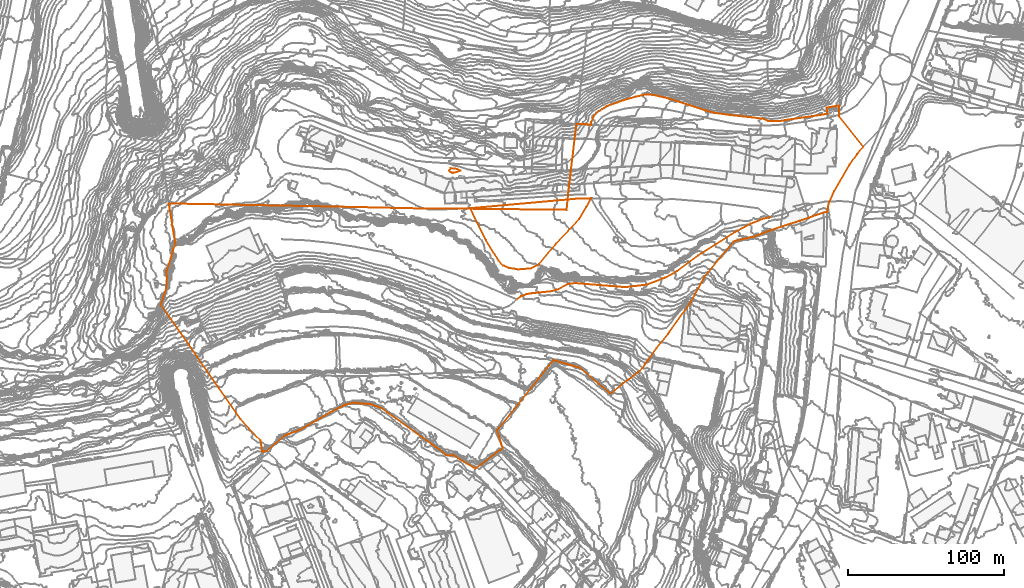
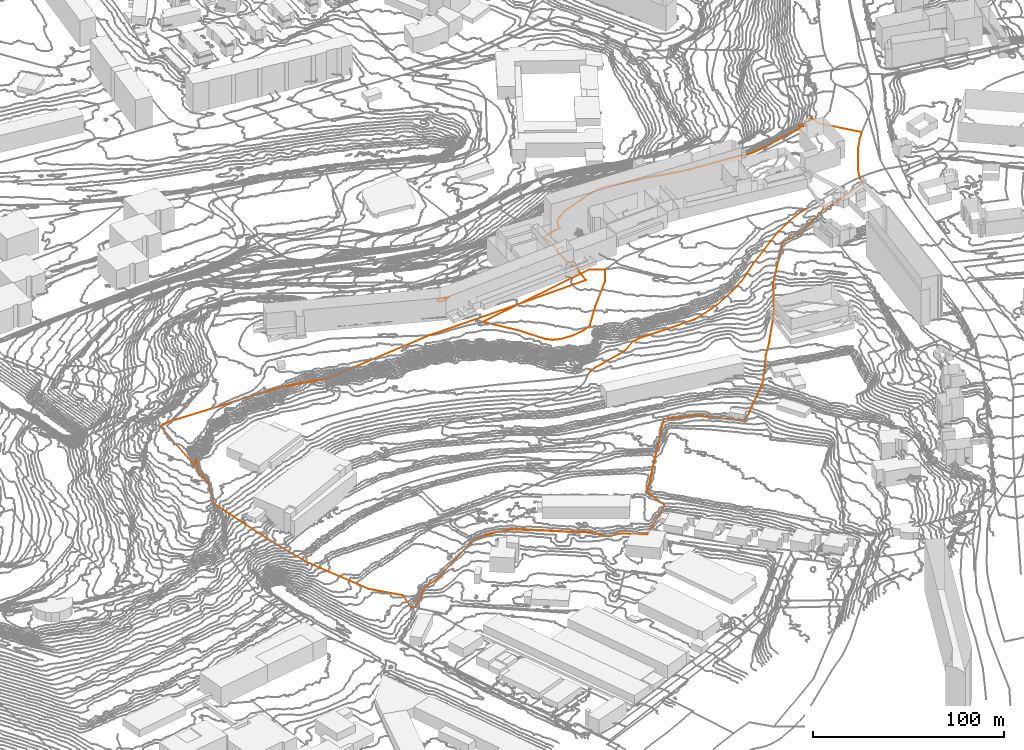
# Not in any storey, part 204 of 419: 5 proxies.
"""IFC2X3 model written with IfcOpenShell, lengths in metres."""

from ifc_helpers import new_model, entity, si_unit, frame, origin_with_axes, place, context, subcontext, project, element, save


model = new_model("IFC2X3")

# Units and contexts
model_context = context("Model", 3, precision=1e-05, world=origin_with_axes())
body_context = subcontext(model_context, "Body", "Model", "MODEL_VIEW")
ifc_project = project(units=[si_unit("AREAUNIT", "SQUARE_METRE"), si_unit("LENGTHUNIT", "METRE")], contexts=[model_context])

# Proxies
proxy_1_placement = place(None, frame((460.4920204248, 296.6976909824, 67.6), z_axis=(0.0, 0.0, 1.0), x_axis=(1.0, 0.0, 0.0)))
element("IfcBuildingElementProxy", 1, at=proxy_1_placement, Name="Route 174", ObjectType="NOTDEFINED", context=body_context, shape_type="GeometricCurveSet", body=[
    entity("IfcGeometricCurveSet", [entity("IfcPolyline", [entity("IfcCartesianPoint", [0.0, 0.0, 0.0]), entity("IfcCartesianPoint", [10.1, -20.3999999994, 3.3]), entity("IfcCartesianPoint", [18.2999999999, -33.5999999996, 3.1]), entity("IfcCartesianPoint", [21.0, -36.5999999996, 3.3]), entity("IfcCartesianPoint", [25.0, -38.2999999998, 3.5]), entity("IfcCartesianPoint", [30.7999999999, -39.2000000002, 3.9]), entity("IfcCartesianPoint", [38.7, -38.5999999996, 4.3]), entity("IfcCartesianPoint", [44.1, -35.8999999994, 4.3]), entity("IfcCartesianPoint", [55.1, -22.5, 4.6]), entity("IfcCartesianPoint", [69.9, -6.8999999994, 5.4]), entity("IfcCartesianPoint", [74.5, 0.9000000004, 5.9]), entity("IfcCartesianPoint", [77.5, 6.4000000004, 2.4])])]),
])
proxy_2_placement = place(None, frame((490.2920204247, 238.2976909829, 58.6), z_axis=(0.0, 0.0, 1.0), x_axis=(1.0, 0.0, 0.0)))
element("IfcBuildingElementProxy", 2, at=proxy_2_placement, Name="Route 182", ObjectType="NOTDEFINED", context=body_context, shape_type="GeometricCurveSet", body=[
    entity("IfcGeometricCurveSet", [entity("IfcPolyline", [entity("IfcCartesianPoint", [0.0, 0.0, 0.0]), entity("IfcCartesianPoint", [2.8, 2.0, 0.3]), entity("IfcCartesianPoint", [6.3, 3.2999999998, 0.6]), entity("IfcCartesianPoint", [9.9, 3.8999999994, 0.8]), entity("IfcCartesianPoint", [22.3, 5.1999999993, 2.6]), entity("IfcCartesianPoint", [26.3, 6.2999999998, 2.7]), entity("IfcCartesianPoint", [32.7000000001, 9.7999999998, 3.9]), entity("IfcCartesianPoint", [37.4, 10.3999999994, 4.2]), entity("IfcCartesianPoint", [69.5, 7.7999999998, 6.6]), entity("IfcCartesianPoint", [83.8, 9.5, 9.8]), entity("IfcCartesianPoint", [95.3, 13.8999999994, 11.9]), entity("IfcCartesianPoint", [103.0, 18.1999999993, 12.2]), entity("IfcCartesianPoint", [116.4, 28.1999999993, 13.4]), entity("IfcCartesianPoint", [140.0, 43.1999999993, 16.4]), entity("IfcCartesianPoint", [149.9, 48.5, 16.6]), entity("IfcCartesianPoint", [158.5, 51.7999999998, 17.3]), entity("IfcCartesianPoint", [162.5, 52.5999999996, 17.3])])]),
])
proxy_3_placement = place(None, frame((460.4920204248, 296.6976909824, 67.6), z_axis=(0.0, 0.0, 1.0), x_axis=(1.0, 0.0, 0.0)))
element("IfcBuildingElementProxy", 3, at=proxy_3_placement, Name="Route 183", ObjectType="NOTDEFINED", context=body_context, shape_type="GeometricCurveSet", body=[
    entity("IfcGeometricCurveSet", [entity("IfcPolyline", [entity("IfcCartesianPoint", [77.5, 6.4000000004, 2.4]), entity("IfcCartesianPoint", [67.7999999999, 6.1000000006, 6.1]), entity("IfcCartesianPoint", [0.0, 0.0, 0.0])])]),
])
proxy_4_placement = place(None, frame((261.9020204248, 235.0976909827, 58.5772102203), z_axis=(0.0, 0.0, 1.0), x_axis=(1.0, 0.0, 0.0)))
element("IfcBuildingElementProxy", 4, at=proxy_4_placement, Name="Cadastre 349", ObjectType="NOTDEFINED", context=body_context, shape_type="GeometricCurveSet", body=[
    entity("IfcGeometricCurveSet", [entity("IfcPolyline", [entity("IfcCartesianPoint", [202.0299999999, -105.25, -26.914180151]), entity("IfcCartesianPoint", [200.85, -104.6699999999, -26.9485856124]), entity("IfcCartesianPoint", [187.5299999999, -96.75, -26.1821710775]), entity("IfcCartesianPoint", [184.61, -96.8899999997, -26.7958016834]), entity("IfcCartesianPoint", [183.33, -96.5899999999, -26.9672506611]), entity("IfcCartesianPoint", [176.2899999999, -91.4900000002, -24.9324689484]), entity("IfcCartesianPoint", [141.75, -66.6299999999, -25.9833512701]), entity("IfcCartesianPoint", [134.74, -64.0999999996, -26.7583103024]), entity("IfcCartesianPoint", [123.46, -63.0800000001, -27.1942998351]), entity("IfcCartesianPoint", [118.0299999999, -64.4500000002, -28.3032106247]), entity("IfcCartesianPoint", [108.64, -69.3700000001, -29.0222855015]), entity("IfcCartesianPoint", [90.01, -80.1900000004, -30.4249418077]), entity("IfcCartesianPoint", [79.63, -84.0700000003, -30.6483387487]), entity("IfcCartesianPoint", [68.23, -94.0, -33.2681498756]), entity("IfcCartesianPoint", [65.23, -94.46, -32.04741053]), entity("IfcCartesianPoint", [64.34, -87.4699999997, -28.388389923]), entity("IfcCartesianPoint", [51.4399999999, -73.6500000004, -28.1747105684]), entity("IfcCartesianPoint", [30.37, -43.5499999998, -21.4176504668]), entity("IfcCartesianPoint", [18.3099999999, -25.7999999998, -13.9216702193]), entity("IfcCartesianPoint", [0.0, 0.0, 0.0]), entity("IfcCartesianPoint", [1.01, 1.8200000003, -1.3383306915]), entity("IfcCartesianPoint", [3.6499999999, 10.1500000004, 4.8099476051]), entity("IfcCartesianPoint", [4.2899999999, 18.1100000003, 4.9075290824]), entity("IfcCartesianPoint", [3.72, 20.7999999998, 3.7881388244]), entity("IfcCartesianPoint", [6.6499999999, 29.2599999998, 7.8422749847]), entity("IfcCartesianPoint", [8.14, 34.75, -1.2082103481]), entity("IfcCartesianPoint", [8.58, 36.4299999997, -1.17840154]), entity("IfcCartesianPoint", [9.77, 37.5499999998, -1.2064095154]), entity("IfcCartesianPoint", [5.46, 64.6600000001, 8.193564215]), entity("IfcCartesianPoint", [11.59, 64.5499999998, 9.2410389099]), entity("IfcCartesianPoint", [76.74, 63.3200000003, 8.7538974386]), entity("IfcCartesianPoint", [105.75, 62.79, 4.8092131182]), entity("IfcCartesianPoint", [164.75, 61.5, 11.7961877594]), entity("IfcCartesianPoint", [199.6, 61.25, 12.5687461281]), entity("IfcCartesianPoint", [260.4399999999, 60.5999999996, 14.7667883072]), entity("IfcCartesianPoint", [260.7799999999, 63.9699999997, 14.7468878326]), entity("IfcCartesianPoint", [261.2899999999, 69.1600000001, 14.8003480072]), entity("IfcCartesianPoint", [261.39, 70.0499999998, 14.8560369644]), entity("IfcCartesianPoint", [261.64, 72.5199999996, 14.8662703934]), entity("IfcCartesianPoint", [262.1699999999, 76.9799999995, 13.8671907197]), entity("IfcCartesianPoint", [263.25, 86.3300000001, 10.1597164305]), entity("IfcCartesianPoint", [265.6, 106.3399999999, 9.5089683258]), entity("IfcCartesianPoint", [266.74, 115.6299999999, 6.3075559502]), entity("IfcCartesianPoint", [273.08, 115.4799999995, 8.8708946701]), entity("IfcCartesianPoint", [273.0699999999, 115.2199999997, 8.8905908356]), entity("IfcCartesianPoint", [276.12, 115.0800000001, 9.5141896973]), entity("IfcCartesianPoint", [276.2999999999, 116.9100000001, 9.2694157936]), entity("IfcCartesianPoint", [278.02, 121.04, 9.5051463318]), entity("IfcCartesianPoint", [281.0, 123.8399999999, 9.5318755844]), entity("IfcCartesianPoint", [286.1, 127.1299999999, 9.5583522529]), entity("IfcCartesianPoint", [299.26, 131.5800000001, 10.0932725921]), entity("IfcCartesianPoint", [304.63, 133.1200000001, 10.4055749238]), entity("IfcCartesianPoint", [310.7999999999, 134.4799999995, 10.54330242]), entity("IfcCartesianPoint", [314.83, 134.46, 10.4857580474]), entity("IfcCartesianPoint", [326.63, 131.7699999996, 11.050139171]), entity("IfcCartesianPoint", [332.1599999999, 129.8799999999, 11.8575656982]), entity("IfcCartesianPoint", [338.0, 128.0899999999, 12.421638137]), entity("IfcCartesianPoint", [349.3199999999, 124.3300000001, 13.2531569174]), entity("IfcCartesianPoint", [355.1499999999, 122.79, 13.5253176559]), entity("IfcCartesianPoint", [364.89, 121.4399999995, 13.8900717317]), entity("IfcCartesianPoint", [386.95, 118.9399999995, 14.566245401]), entity("IfcCartesianPoint", [389.62, 117.46, 14.6610374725]), entity("IfcCartesianPoint", [393.51, 117.4100000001, 14.8859076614]), entity("IfcCartesianPoint", [397.5399999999, 117.6600000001, 15.090247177]), entity("IfcCartesianPoint", [402.46, 118.4000000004, 15.3564022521]), entity("IfcCartesianPoint", [427.72, 122.1200000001, 17.2623619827]), entity("IfcCartesianPoint", [427.0599999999, 126.0700000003, 15.1642805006]), entity("IfcCartesianPoint", [431.01, 126.7299999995, 15.0399584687]), entity("IfcCartesianPoint", [432.98, 126.9900000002, 15.5036792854]), entity("IfcCartesianPoint", [435.33, 127.5899999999, 16.6598076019]), entity("IfcCartesianPoint", [435.1, 120.7000000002, 17.5188901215]), entity("IfcCartesianPoint", [450.6599999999, 101.2199999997, 18.0718868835]), entity("IfcCartesianPoint", [446.74, 96.4000000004, 18.1707900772]), entity("IfcCartesianPoint", [441.83, 89.5999999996, 18.2154520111]), entity("IfcCartesianPoint", [432.02, 72.7400000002, 18.250136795]), entity("IfcCartesianPoint", [428.6799999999, 65.4000000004, 18.3534002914]), entity("IfcCartesianPoint", [427.5399999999, 59.5499999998, 18.4880412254]), entity("IfcCartesianPoint", [425.25, 58.8600000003, 18.7717193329]), entity("IfcCartesianPoint", [415.6499999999, 55.54, 18.4543913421]), entity("IfcCartesianPoint", [410.1499999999, 53.6600000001, 18.1913319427]), entity("IfcCartesianPoint", [404.36, 51.79, 18.2504702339]), entity("IfcCartesianPoint", [397.6599999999, 49.7000000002, 18.2357300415]), entity("IfcCartesianPoint", [390.95, 47.3099999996, 16.5250176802]), entity("IfcCartesianPoint", [380.2999999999, 43.3600000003, 13.0522999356]), entity("IfcCartesianPoint", [368.37, 40.7000000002, 13.3071100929]), entity("IfcCartesianPoint", [367.5699999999, 40.3899999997, 13.2558498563]), entity("IfcCartesianPoint", [348.87, 17.6799999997, 7.6153086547]), entity("IfcCartesianPoint", [340.0399999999, 1.46, 3.5019691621]), entity("IfcCartesianPoint", [339.33, 0.4799999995, 2.8069264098]), entity("IfcCartesianPoint", [337.5599999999, -1.9699999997, 1.5955469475]), entity("IfcCartesianPoint", [326.39, -17.4199999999, 0.7337088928]), entity("IfcCartesianPoint", [325.36, -19.04, 0.6328245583]), entity("IfcCartesianPoint", [318.02, -28.04, 0.0781655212]), entity("IfcCartesianPoint", [311.97, -36.6600000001, -3.5582647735]), entity("IfcCartesianPoint", [310.73, -38.4299999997, -4.2120703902]), entity("IfcCartesianPoint", [309.23, -40.8100000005, -4.6164048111]), entity("IfcCartesianPoint", [306.34, -43.4500000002, -6.0365854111]), entity("IfcCartesianPoint", [296.6699999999, -50.5999999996, -11.1525319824]), entity("IfcCartesianPoint", [288.6899999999, -57.2999999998, -13.7012100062]), entity("IfcCartesianPoint", [268.6599999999, -40.6399999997, -13.3537724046]), entity("IfcCartesianPoint", [251.87, -35.79, -12.7512521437]), entity("IfcCartesianPoint", [215.9299999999, -80.75, -19.5509502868]), entity("IfcCartesianPoint", [219.48, -92.2000000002, -21.9983092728]), entity("IfcCartesianPoint", [217.8199999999, -93.3600000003, -23.8236141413]), entity("IfcCartesianPoint", [213.22, -96.5700000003, -24.7281214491]), entity("IfcCartesianPoint", [205.6499999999, -102.6200000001, -25.6404737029]), entity("IfcCartesianPoint", [202.0299999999, -105.25, -26.914180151])])]),
])
proxy_5_placement = place(None, frame((447.0920004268, 320.8976909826, 71.0), z_axis=(0.0, 0.0, 1.0), x_axis=(1.0, 0.0, 0.0)))
element("IfcBuildingElementProxy", 5, at=proxy_5_placement, Name="Contour 71.0 m", ObjectType="NOTDEFINED", context=body_context, shape_type="GeometricCurveSet", body=[
    entity("IfcGeometricCurveSet", [entity("IfcPolyline", [entity("IfcCartesianPoint", [4.6666018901, -1.0, 0.0]), entity("IfcCartesianPoint", [2.0000199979, -1.5000099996, 0.0]), entity("IfcCartesianPoint", [1.0000199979, -1.1250238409, 0.0]), entity("IfcCartesianPoint", [0.0, 0.0, 0.0]), entity("IfcCartesianPoint", [1.0000199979, 1.4666598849, 0.0]), entity("IfcCartesianPoint", [5.0833692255, 1.0, 0.0]), entity("IfcCartesianPoint", [6.0000199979, 0.2142779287, 0.0]), entity("IfcCartesianPoint", [7.1667078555, 0.0, 0.0]), entity("IfcCartesianPoint", [4.6666018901, -1.0, 0.0])])]),
])

save(model, "model.ifc")
